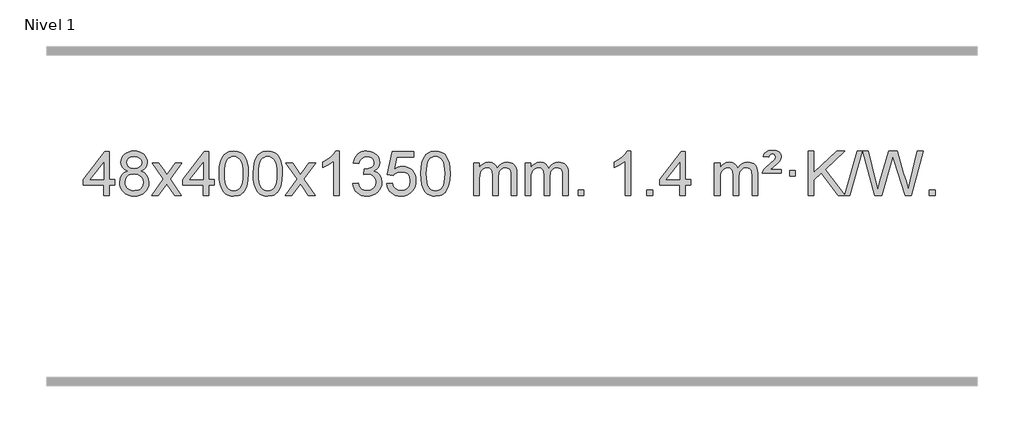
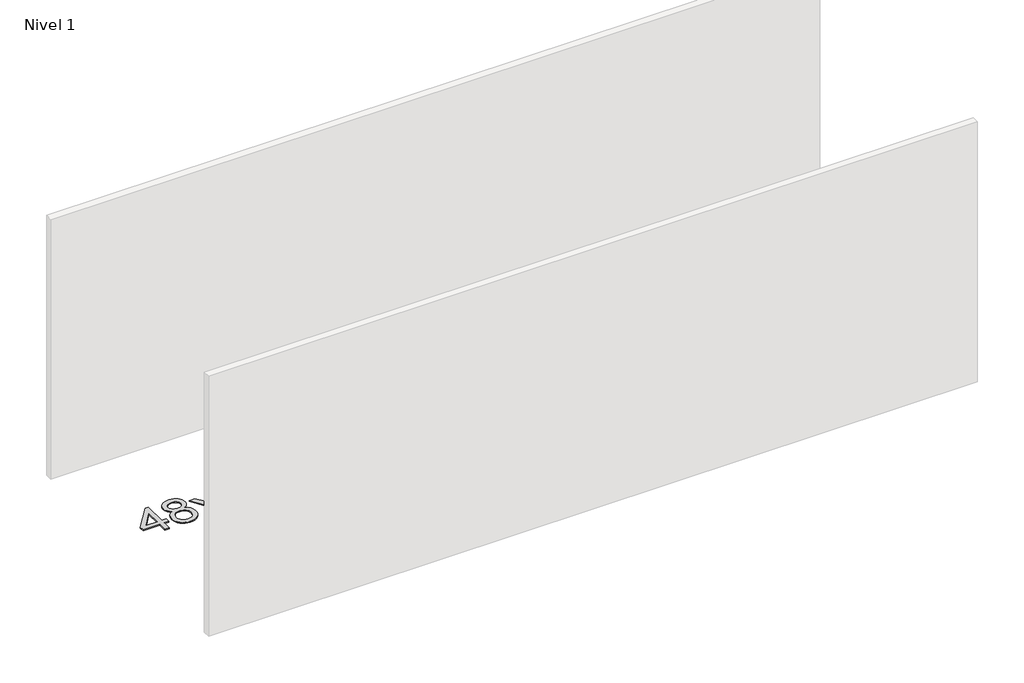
# One storey, part 4 of 10: 1 proxy.
"""IFC4 building model written with IfcOpenShell, lengths in millimetres."""

import ifcopenshell
import ifcopenshell.guid

model = None  # the IFC model being written
_history = None  # IfcOwnerHistory: only IFC2X3 demands one
_inside = {}  # id of a spatial element -> (the spatial element, [elements in it])
_under = {}  # id of a project, library or spatial element -> (it, [spatial elements below it])
_declared = {}  # id of a project -> (the project, [libraries it declares])
_typed = {}  # id of a type object -> (the type object, [elements of that type])
_made_of = {}  # id of a material, layer set ... -> (it, [elements and type objects made of it])


def new_model(schema):
    """Start an empty IFC model of exactly this schema.

    Asked for "IFC4X3", IfcOpenShell would pick the latest addendum, in which some entities
    have other attributes; the version numbers below select the first issue.
    IFC2X3 requires an IfcOwnerHistory on every rooted entity: one is made here for all.
    """
    global model, _history
    if schema == "IFC4X3":
        model = ifcopenshell.file(schema_version=(4, 3, 0, 0))
    else:
        model = ifcopenshell.file(schema=schema)
    _inside.clear()
    _under.clear()
    _declared.clear()
    _typed.clear()
    _made_of.clear()
    _history = None
    if model.schema == "IFC2X3":
        org = make("IfcOrganization", Name="unknown")
        user = make(
            "IfcPersonAndOrganization",
            ThePerson=make("IfcPerson", FamilyName="unknown"),
            TheOrganization=org,
        )
        app = make(
            "IfcApplication",
            ApplicationDeveloper=org,
            Version="unknown",
            ApplicationFullName="unknown",
            ApplicationIdentifier="unknown",
        )
        _history = make(
            "IfcOwnerHistory",
            OwningUser=user,
            OwningApplication=app,
            ChangeAction="ADDED",
            CreationDate=0,
        )
    return model


def make(cls, **values):
    """One entity of the class cls with the attributes given. An attribute that is None is left unset."""
    return model.create_entity(
        cls, **{name: value for name, value in values.items() if value is not None}
    )


def rooted(cls, **values):
    """An entity with a GlobalId (a new one), such as an element, a storey or a relation."""
    return make(cls, GlobalId=ifcopenshell.guid.new(), OwnerHistory=_history, **values)


def si_unit(unit_type, name, prefix=None):
    """IfcSIUnit, for example si_unit("LENGTHUNIT", "METRE", prefix="MILLI")."""
    return make("IfcSIUnit", UnitType=unit_type, Prefix=prefix, Name=name)


def assignment(units):
    """IfcUnitAssignment: the units of a project."""
    return None if units is None else make("IfcUnitAssignment", Units=units)


def point(xyz):
    """IfcCartesianPoint."""
    return None if xyz is None else make("IfcCartesianPoint", Coordinates=xyz)


def direction(xyz):
    """IfcDirection."""
    return None if xyz is None else make("IfcDirection", DirectionRatios=xyz)


def frame(location, z_axis=None, x_axis=None):
    """IfcAxis2Placement3D, a coordinate frame: its origin and axes. An axis left out is left unset."""
    return make(
        "IfcAxis2Placement3D",
        Location=point(location),
        Axis=direction(z_axis),
        RefDirection=direction(x_axis),
    )


def origin():
    """The frame at (0, 0, 0) with its axes left unset."""
    return frame((0.0, 0.0, 0.0))


def origin_with_axes():
    """The frame at (0, 0, 0) with the z axis (0, 0, 1) and the x axis (1, 0, 0) written out."""
    return frame((0.0, 0.0, 0.0), z_axis=(0.0, 0.0, 1.0), x_axis=(1.0, 0.0, 0.0))


def place(relative_to, where):
    """IfcLocalPlacement: puts the frame where relative to a parent placement (None: the world)."""
    return make(
        "IfcLocalPlacement", PlacementRelTo=relative_to, RelativePlacement=where
    )


def context(
    kind, dimensions, precision=None, world=None, true_north=None, identifier=None
):
    """IfcGeometricRepresentationContext, for example the 3D "Model" context."""
    return make(
        "IfcGeometricRepresentationContext",
        ContextIdentifier=identifier,
        ContextType=kind,
        CoordinateSpaceDimension=dimensions,
        Precision=precision,
        WorldCoordinateSystem=world,
        TrueNorth=true_north,
    )


def project(units=None, contexts=None):
    """IfcProject with its units and contexts."""
    return rooted(
        "IfcProject",
        Name="project",
        RepresentationContexts=contexts,
        UnitsInContext=assignment(units),
    )


def spatial(cls, under=None, at=None, **own):
    """A site, building, storey or space (cls), placed at a placement, below another one or the project."""
    s = rooted(cls, ObjectPlacement=at, **own)
    if under is not None:
        _under.setdefault(under.id(), (under, []))[1].append(s)
    return s


def polyline(points):
    """IfcPolyline through the points."""
    return make("IfcPolyline", Points=[point(p) for p in points])


def outline(outer, holes=None, kind="AREA"):
    """IfcArbitraryClosedProfileDef: a profile drawn as a closed curve; with holes, ...WithVoids."""
    if holes is None:
        return make("IfcArbitraryClosedProfileDef", ProfileType=kind, OuterCurve=outer)
    return make(
        "IfcArbitraryProfileDefWithVoids",
        ProfileType=kind,
        OuterCurve=outer,
        InnerCurves=holes,
    )


def extrude(swept, where, along, depth):
    """IfcExtrudedAreaSolid: the profile swept, set in the frame where, extruded along a direction by depth."""
    return make(
        "IfcExtrudedAreaSolid",
        SweptArea=swept,
        Position=where,
        ExtrudedDirection=direction(along),
        Depth=depth,
    )


def shape(context_of_items, identifier, shape_type, items):
    """IfcShapeRepresentation: the items that make up one representation, for example the "Body"."""
    return make(
        "IfcShapeRepresentation",
        ContextOfItems=context_of_items,
        RepresentationIdentifier=identifier,
        RepresentationType=shape_type,
        Items=items,
    )


def made_of(thing, what):
    """Note that an element or type object is made of a material, layer set ...; save() writes the relation."""
    if what is not None:
        _made_of.setdefault(what.id(), (what, []))[1].append(thing)
    return thing


def element(
    cls,
    number,
    at=None,
    inside=None,
    cuts=None,
    type_object=None,
    material=None,
    context=None,
    identifier="Body",
    shape_type=None,
    held_by="IfcProductDefinitionShape",
    body=None,
    shapes=None,
    **own,
):
    """One element of the class cls, such as IfcWall. Its Tag is "e" and its number.

    at: its placement. inside: the storey or other place that contains it. cuts: it is an
    opening in that element (IfcRelVoidsElement). A single representation is given by context,
    identifier, shape_type and body (its items); several are given by shapes. held_by: the class
    of the entity that holds the representations. save() writes the other relations.
    """
    e = rooted(cls, Tag="e%d" % number, ObjectPlacement=at, **own)
    if body is not None:
        shapes = [shape(context, identifier, shape_type, body)]
    if shapes is not None:
        e.Representation = make(held_by, Representations=shapes)
    if inside is not None:
        _inside.setdefault(inside.id(), (inside, []))[1].append(e)
    if cuts is not None:
        rooted(
            "IfcRelVoidsElement", RelatingBuildingElement=cuts, RelatedOpeningElement=e
        )
    if type_object is not None:
        _typed.setdefault(type_object.id(), (type_object, []))[1].append(e)
    return made_of(e, material)


def aggregate(whole, parts):
    """IfcRelAggregates: a whole, such as a stair, and the parts it consists of."""
    return rooted("IfcRelAggregates", RelatingObject=whole, RelatedObjects=parts)


def save(model, path):
    """Write the relations noted so far, then the file.

    IfcRelAggregates (storeys below a building ...), IfcRelContainedInSpatialStructure (elements
    in a storey), IfcRelDefinesByType, IfcRelAssociatesMaterial and IfcRelDeclares: one each for
    every whole, place, type object, material and project.
    """
    for whole, parts in _under.values():
        aggregate(whole, parts)
    for where, things in _inside.values():
        rooted(
            "IfcRelContainedInSpatialStructure",
            RelatedElements=things,
            RelatingStructure=where,
        )
    for kind, things in _typed.values():
        rooted("IfcRelDefinesByType", RelatedObjects=things, RelatingType=kind)
    for what, things in _made_of.values():
        rooted("IfcRelAssociatesMaterial", RelatedObjects=things, RelatingMaterial=what)
    for by, libraries in _declared.values():
        rooted("IfcRelDeclares", RelatingContext=by, RelatedDefinitions=libraries)
    model.write(path)


model = new_model("IFC4")

# Units and contexts
model_context = context("Model", 3, world=origin())
ifc_project = project(units=[si_unit("LENGTHUNIT", "METRE", prefix="MILLI")], contexts=[model_context])

# Site, building, storey
site = spatial("IfcSite", under=ifc_project)
building = spatial("IfcBuilding", under=site)
storey = spatial("IfcBuildingStorey", under=building, Name="Nivel 1", Elevation=0.0)

# Proxy
placement = place(None, origin())
element("IfcBuildingElementProxy", 1, Name="Texto de modelo 1", ObjectType="Texto de modelo 1", at=placement, inside=storey, context=model_context, shape_type="SweptSolid", body=[
    extrude(outline(polyline([(-25062.9088769, 14445.5327586), (-25062.9088769, 14539.7105494), (-25244.9859391, 14539.7105494), (-25244.9859391, 14589.9387045), (-25050.3518382, 14841.0794799), (-25012.6807219, 14841.0794799), (-25012.6807219, 14589.9387045), (-24962.4525668, 14589.9387045), (-24962.4525668, 14539.7105494), (-25012.6807219, 14539.7105494), (-25012.6807219, 14445.5327586), (-25062.9088769, 14445.5327586)]), holes=[polyline([(-25062.9088769, 14589.9387045), (-25062.9088769, 14745.1358555), (-25183.1817639, 14589.9387045), (-25062.9088769, 14589.9387045)])]), origin_with_axes(), (0.0, 0.0, 1.0), 10.0),
    extrude(outline(polyline([(-24845.3189395, 14666.8505669), (-24872.2111134, 14680.0943188), (-24891.0834597, 14698.0469601), (-24902.2302842, 14720.340609), (-24905.9458923, 14746.6073835), (-24903.9225414, 14767.0922793), (-24897.8524884, 14785.8726551), (-24887.7357336, 14802.9485111), (-24873.5722768, 14818.3198471), (-24856.0426997, 14831.0240387), (-24835.827584, 14840.0984612), (-24812.9269298, 14845.5431147), (-24787.3407371, 14847.3579992), (-24761.631917, 14845.5001952), (-24738.5595845, 14839.9267829), (-24718.1237397, 14830.6377626), (-24700.3243825, 14817.633134), (-24685.9034083, 14801.961361), (-24675.6027124, 14784.6709073), (-24669.4222949, 14765.7617727), (-24667.3621557, 14745.2339574), (-24671.0287129, 14719.8133115), (-24682.0283846, 14697.8998073), (-24700.483798, 14680.0575306), (-24726.5175805, 14666.8505669), (-24695.6032302, 14650.9212765), (-24673.1011148, 14627.462668), (-24659.3791164, 14597.6029127), (-24654.805117, 14562.4701822), (-24657.0737226, 14537.4174183), (-24663.8795395, 14514.4493191), (-24675.2225677, 14493.5658845), (-24691.1028071, 14474.7671145), (-24710.686392, 14459.2302316), (-24733.1394565, 14448.1324581), (-24758.4620005, 14441.473794), (-24786.654024, 14439.2542393), (-24814.8460476, 14441.482991), (-24840.1685916, 14448.1692463), (-24862.621656, 14459.313005), (-24882.2052409, 14474.9142673), (-24898.0854804, 14493.8448617), (-24909.4285086, 14514.9766166), (-24916.2343255, 14538.3095321), (-24918.5029311, 14563.8436083), (-24913.7449906, 14600.3375022), (-24899.4711692, 14630.356673), (-24876.4172309, 14652.8710511), (-24845.3189395, 14666.8505669)]), holes=[polyline([(-24855.7177373, 14745.1358555), (-24851.2663651, 14723.2100886), (-24837.9122487, 14705.6989056), (-24816.0477954, 14694.2209874), (-24786.0654128, 14690.3950146), (-24756.782006, 14694.1964619), (-24735.2486466, 14705.6008038), (-24722.0048947, 14722.5233755), (-24717.5903108, 14742.8795126), (-24722.1520475, 14764.0082019), (-24735.8372578, 14781.4825966), (-24757.6649228, 14793.2180323), (-24786.654024, 14797.1298442), (-24815.8270662, 14793.3038714), (-24837.6179431, 14781.8259532), (-24851.1927887, 14765.0014833), (-24855.7177373, 14745.1358555)]), polyline([(-24868.274776, 14565.6094419), (-24866.1778487, 14546.393739), (-24859.8870665, 14527.7911728), (-24848.2742582, 14511.5675768), (-24830.2112523, 14499.4887846), (-24808.5797909, 14491.9839919), (-24786.2616166, 14489.4823943), (-24752.0731165, 14494.7431069), (-24738.1794398, 14501.3189975), (-24726.4194787, 14510.5252445), (-24710.3798237, 14534.4253114), (-24705.033272, 14564.039812), (-24710.551502, 14594.1570847), (-24727.1061917, 14618.5844492), (-24739.1849839, 14628.0267537), (-24753.3484407, 14634.771257), (-24787.9293483, 14640.1668596), (-24821.6396018, 14634.8448334), (-24835.3769286, 14628.1923006), (-24847.0357222, 14618.8787548), (-24862.9650126, 14594.9173741), (-24868.274776, 14565.6094419)])]), origin_with_axes(), (0.0, 0.0, 1.0), 10.0),
    extrude(outline(polyline([(-24629.6910394, 14445.5327586), (-24522.3675987, 14593.8627791), (-24623.41252, 14740.6231697), (-24562.981771, 14740.6231697), (-24514.2251439, 14669.9898266), (-24491.4655111, 14636.6351924), (-24471.7470362, 14663.907511), (-24416.2213804, 14740.6231697), (-24355.7906313, 14740.6231697), (-24461.9368496, 14593.8627791), (-24359.7147059, 14445.5327586), (-24420.145455, 14445.5327586), (-24481.6553246, 14534.7073543), (-24492.9370391, 14550.9922639), (-24569.2602903, 14445.5327586), (-24629.6910394, 14445.5327586)])), origin_with_axes(), (0.0, 0.0, 1.0), 10.0),
    extrude(outline(polyline([(-24165.080605, 14445.5327586), (-24165.080605, 14539.7105494), (-24347.1576671, 14539.7105494), (-24347.1576671, 14589.9387045), (-24152.5235662, 14841.0794799), (-24114.8524499, 14841.0794799), (-24114.8524499, 14589.9387045), (-24064.6242948, 14589.9387045), (-24064.6242948, 14539.7105494), (-24114.8524499, 14539.7105494), (-24114.8524499, 14445.5327586), (-24165.080605, 14445.5327586)]), holes=[polyline([(-24165.080605, 14589.9387045), (-24165.080605, 14745.1358555), (-24285.3534919, 14589.9387045), (-24165.080605, 14589.9387045)])]), origin_with_axes(), (0.0, 0.0, 1.0), 10.0),
    extrude(outline(polyline([(-24020.6746591, 14643.2080174), (-24016.9835765, 14707.5260529), (-24005.9103284, 14758.8210657), (-23987.5652796, 14797.8778709), (-23975.7072166, 14813.1112512), (-23962.0587946, 14825.4812833), (-23946.5740283, 14835.0523465), (-23929.2069324, 14841.8888202), (-23888.8257521, 14847.3579992), (-23857.8746135, 14844.1206377), (-23830.1608366, 14834.408553), (-23806.9842709, 14818.6018899), (-23789.6447662, 14797.0807932), (-23776.5481671, 14770.0292039), (-23766.1003185, 14737.6310628), (-23759.2577134, 14696.489593), (-23756.976845, 14643.2080174), (-23760.6311395, 14579.2578639), (-23771.5940229, 14528.0854784), (-23789.8287072, 14488.991885), (-23801.659179, 14473.7125195), (-23815.298404, 14461.278108), (-23830.8015644, 14451.6426654), (-23848.2238425, 14444.7602064), (-23888.8257521, 14439.2542393), (-23916.4904781, 14441.6454722), (-23941.0159444, 14448.8191711), (-23962.4021511, 14460.775336), (-23980.6490981, 14477.5139668), (-23998.160281, 14507.7722609), (-24010.6682689, 14545.474034), (-24018.1730616, 14590.6192862), (-24020.6746591, 14643.2080174)]), holes=[polyline([(-23970.4465041, 14643.3061192), (-23968.9749761, 14599.6415921), (-23964.5603921, 14564.2973294), (-23957.2027522, 14537.2733312), (-23946.9020564, 14518.5695974), (-23934.4431195, 14505.8439461), (-23920.6107564, 14496.7541951), (-23905.4049673, 14491.3003445), (-23888.8257521, 14489.4823943), (-23872.2465368, 14491.3064759), (-23857.0407477, 14496.7787206), (-23843.2083847, 14505.8991284), (-23830.7494478, 14518.6676993), (-23820.4487519, 14537.4020899), (-23813.091112, 14564.4199567), (-23808.676528, 14599.7212999), (-23807.2050001, 14643.3061192), (-23808.6274771, 14685.8148838), (-23812.8949083, 14720.5368128), (-23820.0072935, 14747.4719062), (-23829.9646328, 14766.620164), (-23842.2151033, 14779.9681491), (-23856.2068818, 14789.5024241), (-23871.9399685, 14795.2229892), (-23889.4143633, 14797.1298442), (-23905.9077394, 14795.4498497), (-23920.8560111, 14790.4098664), (-23934.2591785, 14782.0098942), (-23946.1172414, 14770.249933), (-23956.7612938, 14749.4032867), (-23964.3641884, 14721.2971022), (-23968.9259251, 14685.9313798), (-23970.4465041, 14643.3061192)])]), origin_with_axes(), (0.0, 0.0, 1.0), 10.0),
    extrude(outline(polyline([(-23713.0272093, 14643.2080174), (-23709.3361266, 14707.5260529), (-23698.2628786, 14758.8210657), (-23679.9178297, 14797.8778709), (-23668.0597668, 14813.1112512), (-23654.4113447, 14825.4812833), (-23638.9265784, 14835.0523465), (-23621.5594826, 14841.8888202), (-23581.1783022, 14847.3579992), (-23550.2271637, 14844.1206377), (-23522.5133867, 14834.408553), (-23499.336821, 14818.6018899), (-23481.9973163, 14797.0807932), (-23468.9007173, 14770.0292039), (-23458.4528686, 14737.6310628), (-23451.6102635, 14696.489593), (-23449.3293952, 14643.2080174), (-23452.9836896, 14579.2578639), (-23463.9465731, 14528.0854784), (-23482.1812573, 14488.991885), (-23494.0117292, 14473.7125195), (-23507.6509541, 14461.278108), (-23523.1541145, 14451.6426654), (-23540.5763927, 14444.7602064), (-23581.1783022, 14439.2542393), (-23608.8430283, 14441.6454722), (-23633.3684946, 14448.8191711), (-23654.7547013, 14460.775336), (-23673.0016482, 14477.5139668), (-23690.5128312, 14507.7722609), (-23703.020819, 14545.474034), (-23710.5256117, 14590.6192862), (-23713.0272093, 14643.2080174)]), holes=[polyline([(-23662.7990542, 14643.3061192), (-23661.3275262, 14599.6415921), (-23656.9129423, 14564.2973294), (-23649.5553024, 14537.2733312), (-23639.2546065, 14518.5695974), (-23626.7956696, 14505.8439461), (-23612.9633066, 14496.7541951), (-23597.7575175, 14491.3003445), (-23581.1783022, 14489.4823943), (-23564.599087, 14491.3064759), (-23549.3932978, 14496.7787206), (-23535.5609348, 14505.8991284), (-23523.1019979, 14518.6676993), (-23512.8013021, 14537.4020899), (-23505.4436622, 14564.4199567), (-23501.0290782, 14599.7212999), (-23499.5575502, 14643.3061192), (-23500.9800273, 14685.8148838), (-23505.2474584, 14720.5368128), (-23512.3598437, 14747.4719062), (-23522.317183, 14766.620164), (-23534.5676534, 14779.9681491), (-23548.559432, 14789.5024241), (-23564.2925187, 14795.2229892), (-23581.7669134, 14797.1298442), (-23598.2602895, 14795.4498497), (-23613.2085613, 14790.4098664), (-23626.6117286, 14782.0098942), (-23638.4697916, 14770.249933), (-23649.113844, 14749.4032867), (-23656.7167386, 14721.2971022), (-23661.2784753, 14685.9313798), (-23662.7990542, 14643.3061192)])]), origin_with_axes(), (0.0, 0.0, 1.0), 10.0),
    extrude(outline(polyline([(-23424.2153176, 14445.5327586), (-23316.8918769, 14593.8627791), (-23417.9367982, 14740.6231697), (-23357.5060492, 14740.6231697), (-23308.7494221, 14669.9898266), (-23285.9897893, 14636.6351924), (-23266.2713144, 14663.907511), (-23210.7456586, 14740.6231697), (-23150.3149095, 14740.6231697), (-23256.4611278, 14593.8627791), (-23154.2389841, 14445.5327586), (-23214.6697332, 14445.5327586), (-23276.1796028, 14534.7073543), (-23287.4613173, 14550.9922639), (-23363.7845685, 14445.5327586), (-23424.2153176, 14445.5327586)])), origin_with_axes(), (0.0, 0.0, 1.0), 10.0),
    extrude(outline(polyline([(-22934.4908056, 14445.5327586), (-22984.7189607, 14445.5327586), (-22984.7189607, 14758.6739129), (-23005.6882344, 14741.714553), (-23032.2983654, 14724.7797184), (-23085.1752709, 14699.4203862), (-23085.1752709, 14746.9016891), (-23045.7260583, 14768.3614721), (-23011.5498209, 14793.8924826), (-22984.6085961, 14821.0421738), (-22966.8644212, 14847.3579992), (-22934.4908056, 14847.3579992), (-22934.4908056, 14445.5327586)])), origin_with_axes(), (0.0, 0.0, 1.0), 10.0),
    extrude(outline(polyline([(-22815.1989373, 14552.2675882), (-22764.9707823, 14558.5461076), (-22753.7258559, 14526.9818324), (-22737.2570053, 14505.6692021), (-22714.7548899, 14493.5290963), (-22685.4101694, 14489.4823943), (-22650.9764147, 14495.0496752), (-22636.7025933, 14502.0087763), (-22624.3908092, 14511.7515178), (-22607.394661, 14536.6693916), (-22601.7292783, 14566.8847661), (-22607.3456101, 14595.567299), (-22624.1946054, 14618.8297038), (-22649.7010904, 14634.2439594), (-22681.2898911, 14639.3820446), (-22716.5084608, 14633.8883402), (-22710.9166544, 14684.1164952), (-22702.8723015, 14683.5278841), (-22672.7795543, 14687.1331276), (-22645.8751177, 14697.9488583), (-22634.8018696, 14706.1281013), (-22626.8924067, 14716.2448562), (-22622.146729, 14728.2991229), (-22620.5648364, 14742.2909014), (-22625.1510986, 14763.9836764), (-22638.9098853, 14781.5806985), (-22659.9036844, 14793.2425577), (-22686.1949844, 14797.1298442), (-22712.5353352, 14793.2057695), (-22734.0686947, 14781.4335457), (-22749.7895186, 14761.8131726), (-22758.6922629, 14734.3446503), (-22808.920418, 14740.6231697), (-22802.966861, 14764.6029444), (-22794.1315618, 14785.7255023), (-22782.4145202, 14803.9908434), (-22767.8157364, 14819.3989676), (-22750.7950627, 14831.6310439), (-22731.8123518, 14840.3682413), (-22710.8676035, 14845.6105598), (-22687.9608179, 14847.3579992), (-22656.38428, 14843.9121712), (-22627.3829161, 14833.5746872), (-22602.9310261, 14817.265252), (-22585.0029102, 14795.9035708), (-22574.0032386, 14771.2922654), (-22570.3366814, 14745.2339574), (-22573.8192976, 14720.9537457), (-22584.2671462, 14698.9298769), (-22601.5330745, 14680.1678952), (-22625.4699297, 14665.6733446), (-22594.0282818, 14652.969153), (-22570.7290888, 14631.3376917), (-22556.3081146, 14601.956183), (-22551.5011232, 14566.0018493), (-22553.9046189, 14540.5198898), (-22561.115106, 14517.0490185), (-22573.1325845, 14495.5892354), (-22589.9570544, 14476.1405406), (-22610.4542129, 14460.0027838), (-22633.4897572, 14448.4758146), (-22659.0636872, 14441.5596331), (-22687.176003, 14439.2542393), (-22712.5843862, 14441.2224079), (-22735.7364264, 14447.126914), (-22756.6321237, 14456.9677573), (-22775.2714781, 14470.744938), (-22790.9003316, 14487.6491157), (-22802.7645259, 14506.87095), (-22810.8640612, 14528.4104408), (-22815.1989373, 14552.2675882)])), origin_with_axes(), (0.0, 0.0, 1.0), 10.0),
    extrude(outline(polyline([(-22507.5514875, 14552.2675882), (-22457.3233324, 14558.5461076), (-22448.1017571, 14528.3920467), (-22432.0130512, 14506.7973736), (-22409.1307911, 14493.8111391), (-22379.5285532, 14489.4823943), (-22360.3986894, 14490.9876448), (-22343.5251686, 14495.5033963), (-22328.9079907, 14503.0296488), (-22316.5471556, 14513.5664023), (-22306.718575, 14526.5924906), (-22299.6981602, 14541.5867476), (-22294.0818284, 14577.4797676), (-22299.342541, 14611.2758602), (-22305.9184316, 14625.1940624), (-22315.1246786, 14637.1257017), (-22326.9919386, 14646.696765), (-22341.5508686, 14653.5332387), (-22378.7437383, 14659.0024177), (-22403.1097891, 14656.8196512), (-22422.8405268, 14650.2713517), (-22438.5981389, 14640.240436), (-22451.044813, 14627.6098208), (-22501.2729681, 14633.8883402), (-22457.3233324, 14841.0794799), (-22262.6892315, 14841.0794799), (-22262.6892315, 14790.8513248), (-22416.7091602, 14790.8513248), (-22438.1934687, 14680.1924206), (-22420.4676879, 14692.8966122), (-22402.3127114, 14701.9710347), (-22383.7285393, 14707.4156883), (-22364.7151715, 14709.2305728), (-22340.2540845, 14706.9803612), (-22317.7856917, 14700.2297266), (-22297.3099929, 14688.9786689), (-22278.8269884, 14673.2271882), (-22263.5261631, 14653.9379089), (-22252.5970021, 14632.0734557), (-22246.0395056, 14607.6338284), (-22243.8536734, 14580.6190273), (-22245.821842, 14554.5975075), (-22251.7263481, 14530.3908722), (-22261.5671914, 14507.9991214), (-22275.3443722, 14487.4222552), (-22296.215544, 14466.3487482), (-22320.5693321, 14451.2962432), (-22348.4057364, 14442.2647402), (-22379.7247569, 14439.2542393), (-22405.6451092, 14441.1886854), (-22429.0577325, 14446.9920239), (-22449.9626268, 14456.6642547), (-22468.3597923, 14470.2053778), (-22483.666749, 14486.9409429), (-22495.3010171, 14506.1964996), (-22503.2625966, 14527.9720481), (-22507.5514875, 14552.2675882)])), origin_with_axes(), (0.0, 0.0, 1.0), 10.0),
    extrude(outline(polyline([(-22199.9040377, 14643.2080174), (-22196.212955, 14707.5260529), (-22185.1397069, 14758.8210657), (-22166.7946581, 14797.8778709), (-22154.9365951, 14813.1112512), (-22141.2881731, 14825.4812833), (-22125.8034068, 14835.0523465), (-22108.4363109, 14841.8888202), (-22068.0551306, 14847.3579992), (-22037.1039921, 14844.1206377), (-22009.3902151, 14834.408553), (-21986.2136494, 14818.6018899), (-21968.8741447, 14797.0807932), (-21955.7775457, 14770.0292039), (-21945.329697, 14737.6310628), (-21938.4870919, 14696.489593), (-21936.2062235, 14643.2080174), (-21939.860518, 14579.2578639), (-21950.8234015, 14528.0854784), (-21969.0580857, 14488.991885), (-21980.8885575, 14473.7125195), (-21994.5277825, 14461.278108), (-22010.0309429, 14451.6426654), (-22027.4532211, 14444.7602064), (-22068.0551306, 14439.2542393), (-22095.7198566, 14441.6454722), (-22120.245323, 14448.8191711), (-22141.6315296, 14460.775336), (-22159.8784766, 14477.5139668), (-22177.3896596, 14507.7722609), (-22189.8976474, 14545.474034), (-22197.4024401, 14590.6192862), (-22199.9040377, 14643.2080174)]), holes=[polyline([(-22149.6758826, 14643.3061192), (-22148.2043546, 14599.6415921), (-22143.7897707, 14564.2973294), (-22136.4321308, 14537.2733312), (-22126.1314349, 14518.5695974), (-22113.672498, 14505.8439461), (-22099.840135, 14496.7541951), (-22084.6343459, 14491.3003445), (-22068.0551306, 14489.4823943), (-22051.4759154, 14491.3064759), (-22036.2701262, 14496.7787206), (-22022.4377632, 14505.8991284), (-22009.9788263, 14518.6676993), (-21999.6781304, 14537.4020899), (-21992.3204905, 14564.4199567), (-21987.9059066, 14599.7212999), (-21986.4343786, 14643.3061192), (-21987.8568557, 14685.8148838), (-21992.1242868, 14720.5368128), (-21999.236672, 14747.4719062), (-22009.1940114, 14766.620164), (-22021.4444818, 14779.9681491), (-22035.4362604, 14789.5024241), (-22051.169347, 14795.2229892), (-22068.6437418, 14797.1298442), (-22085.1371179, 14795.4498497), (-22100.0853897, 14790.4098664), (-22113.488557, 14782.0098942), (-22125.34662, 14770.249933), (-22135.9906724, 14749.4032867), (-22143.5935669, 14721.2971022), (-22148.1553037, 14685.9313798), (-22149.6758826, 14643.3061192)])]), origin_with_axes(), (0.0, 0.0, 1.0), 10.0),
    extrude(outline(polyline([(-21722.7365645, 14445.5327586), (-21722.7365645, 14740.6231697), (-21672.5084094, 14740.6231697), (-21672.5084094, 14692.0627463), (-21657.4007221, 14714.368658), (-21637.9765528, 14731.8430528), (-21614.8980889, 14743.13703), (-21588.8275182, 14746.9016891), (-21560.8930121, 14743.0634536), (-21538.5012613, 14731.5487472), (-21521.7748932, 14713.1178592), (-21510.8365352, 14688.5310792), (-21492.5282746, 14714.068221), (-21471.64484, 14732.3090366), (-21448.1862315, 14743.253526), (-21422.1524489, 14746.9016891), (-21402.0446322, 14745.3841759), (-21384.3954935, 14740.8316362), (-21369.2050328, 14733.24407), (-21356.4732501, 14722.6214774), (-21346.4086118, 14708.841231), (-21339.2195845, 14691.7807035), (-21334.9061681, 14671.4398948), (-21333.4683626, 14647.8188051), (-21333.4683626, 14445.5327586), (-21383.6965177, 14445.5327586), (-21383.6965177, 14626.2363947), (-21384.8614774, 14651.2891585), (-21388.3563563, 14668.1749421), (-21394.9046558, 14679.7386995), (-21405.2298772, 14688.8253848), (-21418.5104172, 14694.7114967), (-21433.9246728, 14696.673534), (-21461.1356777, 14691.6458134), (-21483.318962, 14676.5626516), (-21491.924335, 14664.9927629), (-21498.07103, 14650.393979), (-21502.988386, 14612.1097261), (-21502.988386, 14445.5327586), (-21553.2165411, 14445.5327586), (-21553.2165411, 14631.828201), (-21556.1228088, 14660.228691), (-21564.8416121, 14680.4867262), (-21580.1822913, 14692.6268321), (-21602.9541868, 14696.673534), (-21622.3047798, 14693.9757327), (-21640.1347938, 14685.8823288), (-21654.8500736, 14672.5895261), (-21664.8564639, 14654.2935282), (-21670.595423, 14628.9096705), (-21672.5084094, 14594.3532884), (-21672.5084094, 14445.5327586), (-21722.7365645, 14445.5327586)])), origin_with_axes(), (0.0, 0.0, 1.0), 10.0),
    extrude(outline(polyline([(-21258.12613, 14445.5327586), (-21258.12613, 14740.6231697), (-21207.8979749, 14740.6231697), (-21207.8979749, 14692.0627463), (-21192.7902877, 14714.368658), (-21173.3661183, 14731.8430528), (-21150.2876545, 14743.13703), (-21124.2170838, 14746.9016891), (-21096.2825776, 14743.0634536), (-21073.8908268, 14731.5487472), (-21057.1644588, 14713.1178592), (-21046.2261008, 14688.5310792), (-21027.9178402, 14714.068221), (-21007.0344056, 14732.3090366), (-20983.575797, 14743.253526), (-20957.5420145, 14746.9016891), (-20937.4341978, 14745.3841759), (-20919.7850591, 14740.8316362), (-20904.5945983, 14733.24407), (-20891.8628156, 14722.6214774), (-20881.7981774, 14708.841231), (-20874.6091501, 14691.7807035), (-20870.2957337, 14671.4398948), (-20868.8579282, 14647.8188051), (-20868.8579282, 14445.5327586), (-20919.0860833, 14445.5327586), (-20919.0860833, 14626.2363947), (-20920.2510429, 14651.2891585), (-20923.7459219, 14668.1749421), (-20930.2942214, 14679.7386995), (-20940.6194427, 14688.8253848), (-20953.8999827, 14694.7114967), (-20969.3142383, 14696.673534), (-20996.5252433, 14691.6458134), (-21018.7085276, 14676.5626516), (-21027.3139006, 14664.9927629), (-21033.4605956, 14650.393979), (-21038.3779516, 14612.1097261), (-21038.3779516, 14445.5327586), (-21088.6061066, 14445.5327586), (-21088.6061066, 14631.828201), (-21091.5123744, 14660.228691), (-21100.2311777, 14680.4867262), (-21115.5718569, 14692.6268321), (-21138.3437524, 14696.673534), (-21157.6943453, 14693.9757327), (-21175.5243594, 14685.8823288), (-21190.2396392, 14672.5895261), (-21200.2460294, 14654.2935282), (-21205.9849886, 14628.9096705), (-21207.8979749, 14594.3532884), (-21207.8979749, 14445.5327586), (-21258.12613, 14445.5327586)])), origin_with_axes(), (0.0, 0.0, 1.0), 10.0),
    extrude(outline(polyline([(-20780.9586568, 14445.5327586), (-20780.9586568, 14495.7609137), (-20730.7305017, 14495.7609137), (-20730.7305017, 14445.5327586), (-20780.9586568, 14445.5327586)])), origin_with_axes(), (0.0, 0.0, 1.0), 10.0),
    extrude(outline(polyline([(-20303.7911836, 14445.5327586), (-20354.0193387, 14445.5327586), (-20354.0193387, 14758.6739129), (-20374.9886124, 14741.714553), (-20401.5987434, 14724.7797184), (-20454.4756488, 14699.4203862), (-20454.4756488, 14746.9016891), (-20415.0264362, 14768.3614721), (-20380.8501989, 14793.8924826), (-20353.9089741, 14821.0421738), (-20336.1647992, 14847.3579992), (-20303.7911836, 14847.3579992), (-20303.7911836, 14445.5327586)])), origin_with_axes(), (0.0, 0.0, 1.0), 10.0),
    extrude(outline(polyline([(-20159.3852378, 14445.5327586), (-20159.3852378, 14495.7609137), (-20109.1570827, 14495.7609137), (-20109.1570827, 14445.5327586), (-20159.3852378, 14445.5327586)])), origin_with_axes(), (0.0, 0.0, 1.0), 10.0),
    extrude(outline(polyline([(-19864.2948267, 14445.5327586), (-19864.2948267, 14539.7105494), (-20046.3718888, 14539.7105494), (-20046.3718888, 14589.9387045), (-19851.7377879, 14841.0794799), (-19814.0666716, 14841.0794799), (-19814.0666716, 14589.9387045), (-19763.8385165, 14589.9387045), (-19763.8385165, 14539.7105494), (-19814.0666716, 14539.7105494), (-19814.0666716, 14445.5327586), (-19864.2948267, 14445.5327586)]), holes=[polyline([(-19864.2948267, 14589.9387045), (-19864.2948267, 14745.1358555), (-19984.5677137, 14589.9387045), (-19864.2948267, 14589.9387045)])]), origin_with_axes(), (0.0, 0.0, 1.0), 10.0),
    extrude(outline(polyline([(-19550.3688575, 14445.5327586), (-19550.3688575, 14740.6231697), (-19500.1407024, 14740.6231697), (-19500.1407024, 14692.0627463), (-19485.0330151, 14714.368658), (-19465.6088458, 14731.8430528), (-19442.530382, 14743.13703), (-19416.4598112, 14746.9016891), (-19388.5253051, 14743.0634536), (-19366.1335543, 14731.5487472), (-19349.4071862, 14713.1178592), (-19338.4688283, 14688.5310792), (-19320.1605676, 14714.068221), (-19299.277133, 14732.3090366), (-19275.8185245, 14743.253526), (-19249.784742, 14746.9016891), (-19229.6769252, 14745.3841759), (-19212.0277865, 14740.8316362), (-19196.8373258, 14733.24407), (-19184.1055431, 14722.6214774), (-19174.0409048, 14708.841231), (-19166.8518775, 14691.7807035), (-19162.5384611, 14671.4398948), (-19161.1006556, 14647.8188051), (-19161.1006556, 14445.5327586), (-19211.3288107, 14445.5327586), (-19211.3288107, 14626.2363947), (-19212.4937704, 14651.2891585), (-19215.9886493, 14668.1749421), (-19222.5369488, 14679.7386995), (-19232.8621702, 14688.8253848), (-19246.1427102, 14694.7114967), (-19261.5569658, 14696.673534), (-19288.7679707, 14691.6458134), (-19310.951255, 14676.5626516), (-19319.556628, 14664.9927629), (-19325.703323, 14650.393979), (-19330.620679, 14612.1097261), (-19330.620679, 14445.5327586), (-19380.8488341, 14445.5327586), (-19380.8488341, 14631.828201), (-19383.7551019, 14660.228691), (-19392.4739051, 14680.4867262), (-19407.8145843, 14692.6268321), (-19430.5864798, 14696.673534), (-19449.9370728, 14693.9757327), (-19467.7670868, 14685.8823288), (-19482.4823666, 14672.5895261), (-19492.4887569, 14654.2935282), (-19498.227716, 14628.9096705), (-19500.1407024, 14594.3532884), (-19500.1407024, 14445.5327586), (-19550.3688575, 14445.5327586)])), origin_with_axes(), (0.0, 0.0, 1.0), 10.0),
    extrude(outline(polyline([(-19117.15102, 14646.4453789), (-19113.3250472, 14662.2643047), (-19104.9863887, 14678.1322815), (-19083.4775547, 14703.2708845), (-19051.520872, 14731.0091869), (-19007.3750326, 14768.3859976), (-19000.2381219, 14779.9129668), (-18997.8591517, 14791.7342416), (-18999.7476126, 14803.8252965), (-19005.4129953, 14813.6109575), (-19014.7817234, 14820.0856807), (-19027.7802206, 14822.2439217), (-19040.214632, 14820.6252409), (-19049.0683254, 14815.7691986), (-19055.4939976, 14806.3023686), (-19060.6443455, 14790.8513248), (-19110.8725006, 14797.1298442), (-19100.0322444, 14822.3420236), (-19083.4039783, 14839.9022575), (-19059.6388014, 14850.2029533), (-19027.3878131, 14853.6365186), (-18991.6051577, 14849.5039775), (-18966.8589622, 14837.1063543), (-18952.437988, 14818.7735682), (-18947.6309966, 14796.8355386), (-18951.7267495, 14773.928753), (-18964.0140081, 14752.2972917), (-18984.5418234, 14732.4807149), (-19021.0111919, 14704.4235814), (-19046.6157787, 14677.8379759), (-18947.6309966, 14677.8379759), (-18947.6309966, 14646.4453789), (-19117.15102, 14646.4453789)])), origin_with_axes(), (0.0, 0.0, 1.0), 10.0),
    extrude(outline(polyline([(-18872.288764, 14621.3313014), (-18872.288764, 14671.5594565), (-18822.0606089, 14671.5594565), (-18822.0606089, 14621.3313014), (-18872.288764, 14621.3313014)])), origin_with_axes(), (0.0, 0.0, 1.0), 10.0),
    extrude(outline(polyline([(-18431.4189809, 14445.5327586), (-18584.8502984, 14648.2112125), (-18652.5405855, 14583.6601851), (-18652.5405855, 14445.5327586), (-18702.7687406, 14445.5327586), (-18702.7687406, 14847.3579992), (-18652.5405855, 14847.3579992), (-18652.5405855, 14650.6637591), (-18446.5266682, 14847.3579992), (-18376.2857326, 14847.3579992), (-18549.2393213, 14682.1544579), (-18374.5857114, 14451.5772784), (-18263.2723837, 14847.3579992), (-18217.9493219, 14847.3579992), (-18330.9626708, 14445.5327586), (-18370.0072132, 14445.5327586), (-18376.2857326, 14445.5327586), (-18431.4189809, 14445.5327586)])), origin_with_axes(), (0.0, 0.0, 1.0), 10.0),
    extrude(outline(polyline([(-18103.464445, 14445.5327586), (-18213.0442286, 14847.3579992), (-18161.2464437, 14847.3579992), (-18097.6764349, 14583.2677776), (-18078.0560618, 14501.7451275), (-18057.0622627, 14573.8499986), (-17977.403548, 14847.3579992), (-17902.7480284, 14847.3579992), (-17844.8679278, 14649.0941293), (-17820.0726814, 14575.5177303), (-17801.8012089, 14501.7451275), (-17782.7694471, 14580.9133329), (-17718.6108271, 14847.3579992), (-17666.8130422, 14847.3579992), (-17776.4909277, 14445.5327586), (-17830.152648, 14445.5327586), (-17926.4886798, 14755.5346532), (-17939.9286354, 14798.7975759), (-17955.0363227, 14746.7054854), (-18042.8374922, 14445.5327586), (-18103.464445, 14445.5327586)])), origin_with_axes(), (0.0, 0.0, 1.0), 10.0),
    extrude(outline(polyline([(-17610.3063677, 14445.5327586), (-17610.3063677, 14495.7609137), (-17560.0782126, 14495.7609137), (-17560.0782126, 14445.5327586), (-17610.3063677, 14445.5327586)])), origin_with_axes(), (0.0, 0.0, 1.0), 10.0),
])

save(model, "model.ifc")
